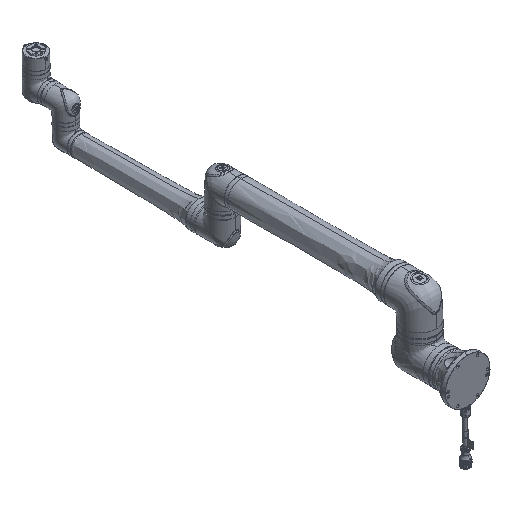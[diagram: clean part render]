
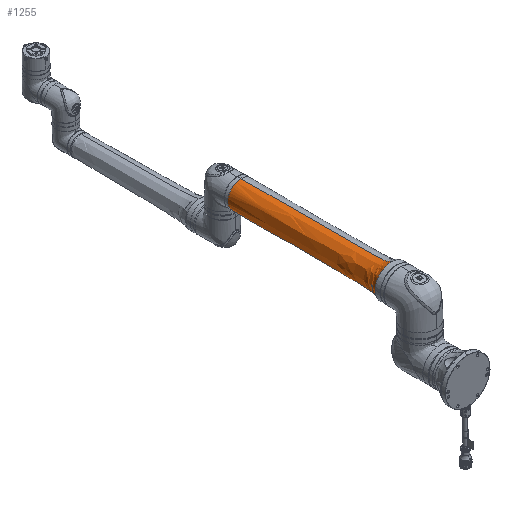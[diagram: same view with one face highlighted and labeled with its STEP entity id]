
A CAD part, isometric view. The second image highlights one B-rep face of the part: STEP entity #1255.
In plain terms, the highlighted free-form (B-spline) face has degree [5, 3] with [6, 4] control points.
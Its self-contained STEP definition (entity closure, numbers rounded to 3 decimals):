
#1255 = ADVANCED_FACE ( 'NONE', ( #41202 ), #41509, .T. ) ;
#2234 = VERTEX_POINT ( 'NONE', #73414 ) ;
#6469 = CARTESIAN_POINT ( 'NONE',  ( -139.4, 361.6, 290.9 ) ) ;
#7064 = DIRECTION ( 'NONE',  ( -1., 0., 0. ) ) ;
#10431 = ORIENTED_EDGE ( 'NONE', *, *, #71592, .F. ) ;
#12187 = CARTESIAN_POINT ( 'NONE',  ( -120., 1034.5, 281.2 ) ) ;
#12501 = CARTESIAN_POINT ( 'NONE',  ( 0., 347.6, 296.2 ) ) ;
#13750 = CARTESIAN_POINT ( 'NONE',  ( 0., 380.8, 283. ) ) ;
#14068 = CARTESIAN_POINT ( 'NONE',  ( 0., 380.8, 159.4 ) ) ;
#16493 = CARTESIAN_POINT ( 'NONE',  ( 0., 1034.5, 221.2 ) ) ;
#17768 = CARTESIAN_POINT ( 'NONE',  ( -150., 347.6, 296.2 ) ) ;
#19972 = CIRCLE ( 'NONE', #88325, 60. ) ;
#21696 = DIRECTION ( 'NONE',  ( -1., 0., 0. ) ) ;
#22250 = CARTESIAN_POINT ( 'NONE',  ( -115.8, 384.6, 279.1 ) ) ;
#22317 = CARTESIAN_POINT ( 'NONE',  ( 0., 347.6, 221.2 ) ) ;
#23797 = CARTESIAN_POINT ( 'NONE',  ( 0., 384.6, 279.1 ) ) ;
#24729 = CARTESIAN_POINT ( 'NONE',  ( -123.6, 380.8, 283. ) ) ;
#25404 = ORIENTED_EDGE ( 'NONE', *, *, #83348, .F. ) ;
#25812 = EDGE_CURVE ( 'NONE', #31719, #57232, #100725, .T. ) ;
#26058 = CARTESIAN_POINT ( 'NONE',  ( -75., 347.6, 221.2 ) ) ;
#27656 = DIRECTION ( 'NONE',  ( -1., 0., 0. ) ) ;
#31438 = ORIENTED_EDGE ( 'NONE', *, *, #48669, .T. ) ;
#31693 = CARTESIAN_POINT ( 'NONE',  ( -122., 415.2, 282.2 ) ) ;
#31719 = VERTEX_POINT ( 'NONE', #26058 ) ;
#32001 = CARTESIAN_POINT ( 'NONE',  ( 0., 361.6, 290.9 ) ) ;
#32290 = AXIS2_PLACEMENT_3D ( 'NONE', #37129, #113920, #27656 ) ;
#32947 = CARTESIAN_POINT ( 'NONE',  ( 0., 415.2, 160.2 ) ) ;
#36053 = CARTESIAN_POINT ( 'NONE',  ( 0., 347.6, 146.2 ) ) ;
#37129 = CARTESIAN_POINT ( 'NONE',  ( 0., 347.6, 221.2 ) ) ;
#38154 = VERTEX_POINT ( 'NONE', #89313 ) ;
#38165 = CARTESIAN_POINT ( 'NONE',  ( 0., 1034.5, 281.2 ) ) ;
#41202 = FACE_OUTER_BOUND ( 'NONE', #51340, .T. ) ;
#41509 =( BOUNDED_SURFACE ( )  B_SPLINE_SURFACE ( 5, 3, ( 
 ( #80857, #42424, #12187, #119200 ),
 ( #32947, #109780, #31693, #70150 ),
 ( #89047, #108537, #22250, #100340 ),
 ( #14068, #90905, #24729, #93988 ),
 ( #101588, #94603, #6469, #111636 ),
 ( #36053, #64429, #17768, #104053 ) ),
 .UNSPECIFIED., .F., .F., .F. ) 
 B_SPLINE_SURFACE_WITH_KNOTS ( ( 6, 6 ),
 ( 4, 4 ),
 ( 0., 1. ),
 ( 0., 1. ),
 .UNSPECIFIED. ) 
 GEOMETRIC_REPRESENTATION_ITEM ( )  RATIONAL_B_SPLINE_SURFACE ( (
 ( 1., 0.333, 0.333, 1.),
 ( 1., 0.333, 0.333, 1.),
 ( 1., 0.333, 0.333, 1.),
 ( 1., 0.333, 0.333, 1.),
 ( 1., 0.333, 0.333, 1.),
 ( 1., 0.333, 0.333, 1.) ) ) 
 REPRESENTATION_ITEM ( '' )  SURFACE ( )  );
#42424 = CARTESIAN_POINT ( 'NONE',  ( -120., 1034.5, 161.2 ) ) ;
#43627 = DIRECTION ( 'NONE',  ( 0., 1., 0. ) ) ;
#44822 = AXIS2_PLACEMENT_3D ( 'NONE', #22317, #117429, #21696 ) ;
#46414 = CARTESIAN_POINT ( 'NONE',  ( 0., 1034.5, 161.2 ) ) ;
#48669 = EDGE_CURVE ( 'NONE', #2234, #31719, #95067, .T. ) ;
#51340 = EDGE_LOOP ( 'NONE', ( #10431, #113662, #31438, #80995, #25404 ) ) ;
#54000 = CARTESIAN_POINT ( 'NONE',  ( 0., 380.8, 159.4 ) ) ;
#57232 = VERTEX_POINT ( 'NONE', #88690 ) ;
#61648 = CARTESIAN_POINT ( 'NONE',  ( 0., 415.2, 282.2 ) ) ;
#64077 = CARTESIAN_POINT ( 'NONE',  ( 0., 384.6, 163.3 ) ) ;
#64429 = CARTESIAN_POINT ( 'NONE',  ( -150., 347.6, 146.2 ) ) ;
#70150 = CARTESIAN_POINT ( 'NONE',  ( 0., 415.2, 282.2 ) ) ;
#70570 = B_SPLINE_CURVE_WITH_KNOTS ( 'NONE', 5,
 ( #108230, #61648, #23797, #13750, #32001, #12501 ),
 .UNSPECIFIED., .F., .F.,
 ( 6, 6 ),
 ( 0., 1. ),
 .UNSPECIFIED. ) ;
#71592 = EDGE_CURVE ( 'NONE', #38154, #73633, #19972, .T. ) ;
#73414 = CARTESIAN_POINT ( 'NONE',  ( 0., 347.6, 146.2 ) ) ;
#73511 = CARTESIAN_POINT ( 'NONE',  ( 0., 347.6, 146.2 ) ) ;
#73633 = VERTEX_POINT ( 'NONE', #38165 ) ;
#80857 = CARTESIAN_POINT ( 'NONE',  ( 0., 1034.5, 161.2 ) ) ;
#80995 = ORIENTED_EDGE ( 'NONE', *, *, #25812, .T. ) ;
#83348 = EDGE_CURVE ( 'NONE', #73633, #57232, #70570, .T. ) ;
#88325 = AXIS2_PLACEMENT_3D ( 'NONE', #16493, #43627, #7064 ) ;
#88690 = CARTESIAN_POINT ( 'NONE',  ( 0., 347.6, 296.2 ) ) ;
#89047 = CARTESIAN_POINT ( 'NONE',  ( 0., 384.6, 163.3 ) ) ;
#89313 = CARTESIAN_POINT ( 'NONE',  ( 0., 1034.5, 161.2 ) ) ;
#90905 = CARTESIAN_POINT ( 'NONE',  ( -123.6, 380.8, 159.4 ) ) ;
#92382 = CARTESIAN_POINT ( 'NONE',  ( 0., 361.6, 151.5 ) ) ;
#93988 = CARTESIAN_POINT ( 'NONE',  ( 0., 380.8, 283. ) ) ;
#94603 = CARTESIAN_POINT ( 'NONE',  ( -139.4, 361.6, 151.5 ) ) ;
#95067 = CIRCLE ( 'NONE', #44822, 75. ) ;
#97307 = EDGE_CURVE ( 'NONE', #38154, #2234, #113640, .T. ) ;
#100340 = CARTESIAN_POINT ( 'NONE',  ( 0., 384.6, 279.1 ) ) ;
#100725 = CIRCLE ( 'NONE', #32290, 75. ) ;
#101588 = CARTESIAN_POINT ( 'NONE',  ( 0., 361.6, 151.5 ) ) ;
#104053 = CARTESIAN_POINT ( 'NONE',  ( 0., 347.6, 296.2 ) ) ;
#108230 = CARTESIAN_POINT ( 'NONE',  ( 0., 1034.5, 281.2 ) ) ;
#108537 = CARTESIAN_POINT ( 'NONE',  ( -115.8, 384.6, 163.3 ) ) ;
#109780 = CARTESIAN_POINT ( 'NONE',  ( -122., 415.2, 160.2 ) ) ;
#111636 = CARTESIAN_POINT ( 'NONE',  ( 0., 361.6, 290.9 ) ) ;
#113640 = B_SPLINE_CURVE_WITH_KNOTS ( 'NONE', 5,
 ( #46414, #123194, #64077, #54000, #92382, #73511 ),
 .UNSPECIFIED., .F., .F.,
 ( 6, 6 ),
 ( 0., 1. ),
 .UNSPECIFIED. ) ;
#113662 = ORIENTED_EDGE ( 'NONE', *, *, #97307, .T. ) ;
#113920 = DIRECTION ( 'NONE',  ( 0., 1., 0. ) ) ;
#117429 = DIRECTION ( 'NONE',  ( 0., 1., 0. ) ) ;
#119200 = CARTESIAN_POINT ( 'NONE',  ( 0., 1034.5, 281.2 ) ) ;
#123194 = CARTESIAN_POINT ( 'NONE',  ( 0., 415.2, 160.2 ) ) ;
